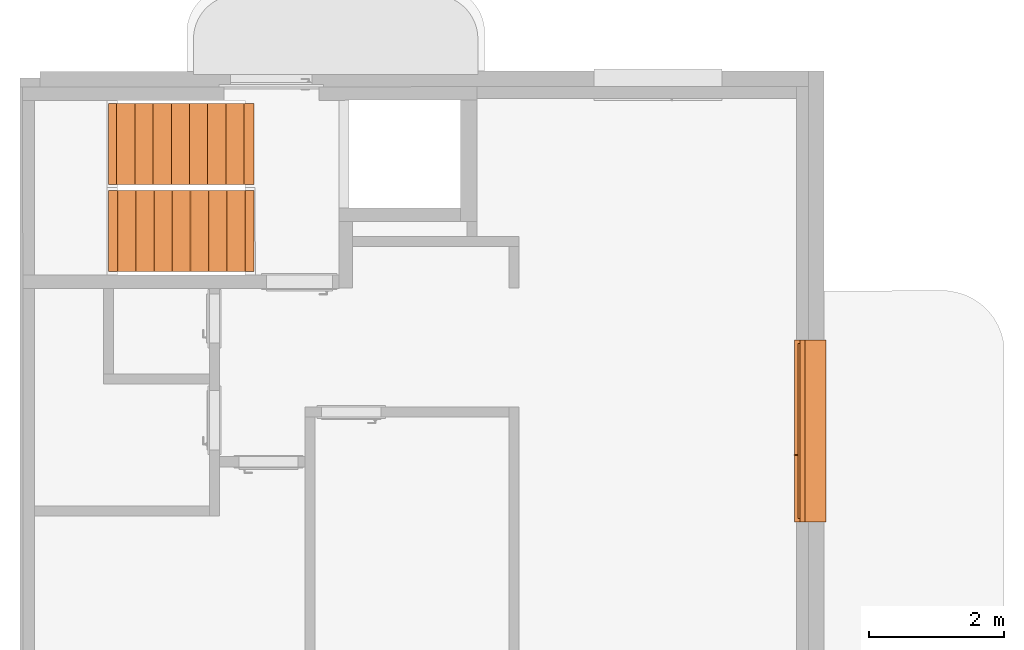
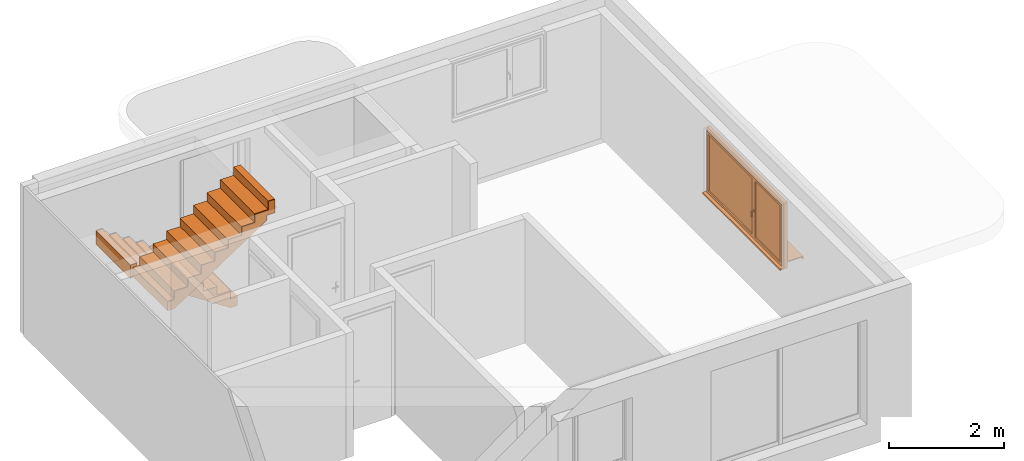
# One storey, part 7 of 9: 4 proxies.
"""IFC2X3 building model written with IfcOpenShell, lengths in metres."""

from ifc_helpers import new_model, entity, si_unit, converted_unit, derived_unit, direction, frame, origin, origin_with_axes, place, context, subcontext, project, spatial, closed_shell, open_shell, faceted_brep, surface_model, source, transform, mapped, element, save


model = new_model("IFC2X3")

# Units and contexts
model_context = context("Model", 3, precision=1e-05, world=origin(), true_north=direction((0.772621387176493, -0.634867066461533)))
body_context = subcontext(model_context, "Body", "Model", "MODEL_VIEW")
ifc_project = project(units=[si_unit("LENGTHUNIT", "METRE"), si_unit("AREAUNIT", "SQUARE_METRE"), si_unit("VOLUMEUNIT", "CUBIC_METRE"), si_unit("MASSUNIT", "GRAM", prefix="KILO"), converted_unit("PLANEANGLEUNIT", "DEGREE", entity("IfcPlaneAngleMeasure", 0.0174532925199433), si_unit("PLANEANGLEUNIT", "RADIAN"), dimensions=[0, 0, 0, 0, 0, 0, 0]), derived_unit("THERMALTRANSMITTANCEUNIT", [(si_unit("POWERUNIT", "WATT"), 1), (si_unit("THERMODYNAMICTEMPERATUREUNIT", "KELVIN"), -1), (si_unit("LENGTHUNIT", "METRE"), -2)]), derived_unit("VOLUMETRICFLOWRATEUNIT", [(si_unit("LENGTHUNIT", "METRE"), 3), (converted_unit("TIMEUNIT", "hour", entity("IfcTimeMeasure", 3600.0), si_unit("TIMEUNIT", "SECOND"), dimensions=[0, 0, 1, 0, 0, 0, 0]), -1), (si_unit("LENGTHUNIT", "METRE"), -1)])], contexts=[model_context])

# Site, building, storey
site_placement = place(None, origin())
site = spatial("IfcSite", under=ifc_project, at=site_placement, Name="Modelle auf dem Nullpunkt", CompositionType="ELEMENT")
building_placement = place(site_placement, origin())
building = spatial("IfcBuilding", under=site, at=building_placement, Name="I", CompositionType="ELEMENT")
storey_placement = place(building_placement, origin())
storey = spatial("IfcBuildingStorey", under=building, at=storey_placement, Name="EG", CompositionType="ELEMENT", Elevation=0.0)

# Proxies
shared_shape = source(origin_with_axes(), body_context, "Body", "SurfaceModel", [
    surface_model("IfcShellBasedSurfaceModel", [(2.69999999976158, 0.019999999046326, 0.12), (2.69999999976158, 0.019999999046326, 0.09), (2.7, 0.0, 0.09), (2.7, 0.0, 0.14), (2.69999999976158, 0.315000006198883, 0.15), (2.69999999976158, 0.315000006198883, 0.12), (0.0, 0.315000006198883, 0.12), (0.0, 0.315000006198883, 0.15), (0.0, 0.0, 0.14), (0.0, 0.0, 0.09), (0.0, 0.019999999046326, 0.09), (0.0, 0.019999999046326, 0.12)], [closed_shell([[[0, 1, 2, 3, 4, 5]], [[6, 7, 8, 9, 10, 11]], [[5, 6, 11, 0]], [[4, 7, 6, 5]], [[3, 8, 7, 4]], [[2, 9, 8, 3]], [[1, 10, 9, 2]], [[0, 11, 10, 1]]], orient=[[False], [False], [False], [False], [False], [False], [False], [False]])]),
    surface_model("IfcShellBasedSurfaceModel", [(2.7, 0.470000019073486, 0.0), (2.69999999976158, 0.355000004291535, 0.0), (2.69999999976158, 0.355000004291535, 0.03), (2.7, 0.470000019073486, 0.03), (0.0, 0.355000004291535, 0.0), (0.0, 0.470000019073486, 0.0), (0.0, 0.470000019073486, 0.03), (0.0, 0.355000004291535, 0.03)], [closed_shell([[[0, 1, 2, 3]], [[4, 5, 6, 7]], [[1, 0, 5, 4]], [[2, 1, 4, 7]], [[3, 2, 7, 6]], [[0, 3, 6, 5]]], orient=[[False], [False], [False], [False], [False], [False]])]),
    surface_model("IfcShellBasedSurfaceModel", [(2.7, 0.385000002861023, 1.4), (2.62999999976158, 0.385000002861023, 1.4), (2.62999999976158, 0.385000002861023, 0.0), (2.7, 0.385000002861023, 0.0), (2.69999999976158, 0.315000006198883, 0.0), (2.62999999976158, 0.315000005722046, 0.0), (2.62999999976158, 0.315000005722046, 1.4), (2.69999999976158, 0.315000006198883, 1.4)], [closed_shell([[[0, 1, 2, 3]], [[4, 5, 6, 7]], [[3, 4, 7, 0]], [[2, 5, 4, 3]], [[1, 6, 5, 2]], [[0, 7, 6, 1]]], orient=[[False], [False], [False], [False], [False], [False]])]),
    surface_model("IfcShellBasedSurfaceModel", [(0.07, 0.385000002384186, 1.4), (0.0, 0.385000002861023, 1.4), (0.0, 0.385000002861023, 0.0), (0.07, 0.385000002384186, 0.0), (0.0700000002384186, 0.315000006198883, 0.0), (0.0, 0.315000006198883, 0.0), (0.0, 0.315000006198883, 1.4), (0.0700000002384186, 0.315000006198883, 1.4)], [closed_shell([[[0, 1, 2, 3]], [[4, 5, 6, 7]], [[3, 4, 7, 0]], [[2, 5, 4, 3]], [[1, 6, 5, 2]], [[0, 7, 6, 1]]], orient=[[False], [False], [False], [False], [False], [False]])]),
    surface_model("IfcShellBasedSurfaceModel", [(2.62999999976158, 0.385000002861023, 0.07), (0.07, 0.385000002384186, 0.07), (0.07, 0.385000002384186, 0.0), (2.62999999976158, 0.385000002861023, 0.0), (2.62999999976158, 0.315000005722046, 0.0), (0.0700000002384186, 0.315000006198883, 0.0), (0.0700000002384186, 0.315000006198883, 0.07), (2.62999999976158, 0.315000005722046, 0.07)], [closed_shell([[[0, 1, 2, 3]], [[4, 5, 6, 7]], [[3, 4, 7, 0]], [[2, 5, 4, 3]], [[1, 6, 5, 2]], [[0, 7, 6, 1]]], orient=[[False], [False], [False], [False], [False], [False]])]),
    surface_model("IfcShellBasedSurfaceModel", [(2.62999999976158, 0.385000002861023, 1.4), (0.07, 0.385000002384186, 1.4), (0.07, 0.385000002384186, 1.33), (2.62999999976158, 0.385000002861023, 1.33), (2.62999999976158, 0.315000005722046, 1.33), (0.0700000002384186, 0.315000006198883, 1.33), (0.0700000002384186, 0.315000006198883, 1.4), (2.62999999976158, 0.315000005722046, 1.4)], [closed_shell([[[0, 1, 2, 3]], [[4, 5, 6, 7]], [[3, 4, 7, 0]], [[2, 5, 4, 3]], [[1, 6, 5, 2]], [[0, 7, 6, 1]]], orient=[[False], [False], [False], [False], [False], [False]])]),
    surface_model("IfcShellBasedSurfaceModel", [(2.65, 0.415000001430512, 1.35), (2.6, 0.415000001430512, 1.35), (2.6, 0.415000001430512, 0.05), (2.65, 0.415000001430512, 0.05), (2.64999999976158, 0.365000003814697, 0.05), (2.6, 0.365000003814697, 0.05), (2.6, 0.365000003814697, 1.35), (2.64999999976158, 0.365000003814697, 1.35)], [closed_shell([[[0, 1, 2, 3]], [[4, 5, 6, 7]], [[3, 4, 7, 0]], [[2, 5, 4, 3]], [[1, 6, 5, 2]], [[0, 7, 6, 1]]], orient=[[False], [False], [False], [False], [False], [False]])]),
    surface_model("IfcShellBasedSurfaceModel", [(1.06864814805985, 0.415000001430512, 1.35), (1.01864814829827, 0.415000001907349, 1.35), (1.01864814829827, 0.415000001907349, 0.05), (1.06864814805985, 0.415000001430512, 0.05), (1.06864814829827, 0.365000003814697, 0.05), (1.01864814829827, 0.365000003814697, 0.05), (1.01864814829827, 0.365000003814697, 1.35), (1.06864814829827, 0.365000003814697, 1.35)], [closed_shell([[[0, 1, 2, 3]], [[4, 5, 6, 7]], [[3, 4, 7, 0]], [[2, 5, 4, 3]], [[1, 6, 5, 2]], [[0, 7, 6, 1]]], orient=[[False], [False], [False], [False], [False], [False]])]),
    surface_model("IfcShellBasedSurfaceModel", [(2.6, 0.415000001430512, 0.1), (1.06864814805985, 0.415000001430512, 0.1), (1.06864814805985, 0.415000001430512, 0.05), (2.6, 0.415000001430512, 0.05), (2.6, 0.365000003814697, 0.05), (1.06864814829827, 0.365000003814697, 0.05), (1.06864814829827, 0.365000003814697, 0.1), (2.6, 0.365000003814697, 0.1)], [closed_shell([[[0, 1, 2, 3]], [[4, 5, 6, 7]], [[3, 4, 7, 0]], [[2, 5, 4, 3]], [[1, 6, 5, 2]], [[0, 7, 6, 1]]], orient=[[False], [False], [False], [False], [False], [False]])]),
    surface_model("IfcShellBasedSurfaceModel", [(2.6, 0.415000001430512, 1.35), (1.06864814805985, 0.415000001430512, 1.35), (1.06864814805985, 0.415000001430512, 1.3), (2.6, 0.415000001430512, 1.3), (2.6, 0.365000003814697, 1.3), (1.06864814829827, 0.365000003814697, 1.3), (1.06864814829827, 0.365000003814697, 1.35), (2.6, 0.365000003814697, 1.35)], [closed_shell([[[0, 1, 2, 3]], [[4, 5, 6, 7]], [[3, 4, 7, 0]], [[2, 5, 4, 3]], [[1, 6, 5, 2]], [[0, 7, 6, 1]]], orient=[[False], [False], [False], [False], [False], [False]])]),
    surface_model("IfcShellBasedSurfaceModel", [(1.04364814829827, 0.365000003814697, 1.33), (0.993648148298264, 0.365000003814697, 1.33), (0.993648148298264, 0.365000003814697, 0.07), (1.04364814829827, 0.365000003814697, 0.07), (1.04364814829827, 0.340000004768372, 0.07), (0.993648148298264, 0.340000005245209, 0.07), (0.993648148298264, 0.340000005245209, 1.33), (1.04364814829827, 0.340000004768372, 1.33)], [closed_shell([[[0, 1, 2, 3]], [[4, 5, 6, 7]], [[3, 4, 7, 0]], [[2, 5, 4, 3]], [[1, 6, 5, 2]], [[0, 7, 6, 1]]], orient=[[False], [False], [False], [False], [False], [False]])]),
    surface_model("IfcShellBasedSurfaceModel", [(1.01764814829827, 0.415000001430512, 1.35), (0.967648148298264, 0.415000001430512, 1.35), (0.967648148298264, 0.415000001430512, 0.05), (1.01764814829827, 0.415000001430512, 0.05), (1.01764814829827, 0.365000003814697, 0.05), (0.967648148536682, 0.365000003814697, 0.05), (0.967648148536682, 0.365000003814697, 1.35), (1.01764814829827, 0.365000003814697, 1.35)], [closed_shell([[[0, 1, 2, 3]], [[4, 5, 6, 7]], [[3, 4, 7, 0]], [[2, 5, 4, 3]], [[1, 6, 5, 2]], [[0, 7, 6, 1]]], orient=[[False], [False], [False], [False], [False], [False]])]),
    surface_model("IfcShellBasedSurfaceModel", [(0.0999999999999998, 0.415000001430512, 1.35), (0.0500000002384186, 0.415000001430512, 1.35), (0.0500000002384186, 0.415000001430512, 0.05), (0.0999999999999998, 0.415000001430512, 0.05), (0.100000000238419, 0.365000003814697, 0.05), (0.0500000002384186, 0.365000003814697, 0.05), (0.0500000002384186, 0.365000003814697, 1.35), (0.100000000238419, 0.365000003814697, 1.35)], [closed_shell([[[0, 1, 2, 3]], [[4, 5, 6, 7]], [[3, 4, 7, 0]], [[2, 5, 4, 3]], [[1, 6, 5, 2]], [[0, 7, 6, 1]]], orient=[[False], [False], [False], [False], [False], [False]])]),
    surface_model("IfcShellBasedSurfaceModel", [(0.967648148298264, 0.415000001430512, 0.1), (0.0999999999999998, 0.415000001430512, 0.1), (0.0999999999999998, 0.415000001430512, 0.05), (0.967648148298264, 0.415000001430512, 0.05), (0.967648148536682, 0.365000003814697, 0.05), (0.100000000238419, 0.365000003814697, 0.05), (0.100000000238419, 0.365000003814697, 0.1), (0.967648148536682, 0.365000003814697, 0.1)], [closed_shell([[[0, 1, 2, 3]], [[4, 5, 6, 7]], [[3, 4, 7, 0]], [[2, 5, 4, 3]], [[1, 6, 5, 2]], [[0, 7, 6, 1]]], orient=[[False], [False], [False], [False], [False], [False]])]),
    surface_model("IfcShellBasedSurfaceModel", [(0.967648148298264, 0.415000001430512, 1.35), (0.0999999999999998, 0.415000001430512, 1.35), (0.0999999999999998, 0.415000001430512, 1.3), (0.967648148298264, 0.415000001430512, 1.3), (0.967648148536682, 0.365000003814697, 1.3), (0.100000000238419, 0.365000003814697, 1.3), (0.100000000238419, 0.365000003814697, 1.35), (0.967648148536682, 0.365000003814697, 1.35)], [closed_shell([[[0, 1, 2, 3]], [[4, 5, 6, 7]], [[3, 4, 7, 0]], [[2, 5, 4, 3]], [[1, 6, 5, 2]], [[0, 7, 6, 1]]], orient=[[False], [False], [False], [False], [False], [False]])]),
    surface_model("IfcShellBasedSurfaceModel", [(1.00514814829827, 0.415000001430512, 0.67), (1.00514814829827, 0.415000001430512, 0.63), (0.980148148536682, 0.415000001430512, 0.63), (0.980148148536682, 0.415000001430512, 0.67), (1.00514814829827, 0.425000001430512, 0.63), (1.00514814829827, 0.425000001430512, 0.67), (0.980148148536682, 0.425000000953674, 0.67), (0.980148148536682, 0.425000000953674, 0.63)], [closed_shell([[[0, 1, 2, 3]], [[4, 5, 6, 7]], [[1, 0, 5, 4]], [[2, 1, 4, 7]], [[3, 2, 7, 6]], [[0, 3, 6, 5]]], orient=[[False], [False], [False], [False], [False], [False]])]),
    surface_model("IfcShellBasedSurfaceModel", [(0.982648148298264, 0.425000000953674, 0.65), (0.983987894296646, 0.425000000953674, 0.655), (0.987648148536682, 0.425000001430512, 0.658660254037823), (0.992648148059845, 0.425000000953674, 0.66), (0.997648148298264, 0.425000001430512, 0.658660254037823), (1.00130840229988, 0.425000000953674, 0.655), (1.00264814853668, 0.425000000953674, 0.65), (1.00130840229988, 0.425000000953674, 0.645), (0.997648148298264, 0.425000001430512, 0.641339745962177), (0.992648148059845, 0.425000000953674, 0.64), (0.987648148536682, 0.425000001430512, 0.641339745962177), (0.983987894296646, 0.425000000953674, 0.645), (0.982648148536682, 0.464999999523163, 0.65), (0.983987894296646, 0.469999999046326, 0.655), (0.987648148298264, 0.473660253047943, 0.658660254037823), (0.992648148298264, 0.474999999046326, 0.66), (0.997648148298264, 0.473660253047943, 0.658660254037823), (1.00130840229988, 0.469999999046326, 0.655), (1.00264814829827, 0.464999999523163, 0.65), (1.00130840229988, 0.459999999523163, 0.645), (0.997648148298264, 0.456339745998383, 0.641339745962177), (0.992648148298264, 0.455, 0.64), (0.987648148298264, 0.456339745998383, 0.641339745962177), (0.983987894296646, 0.46, 0.645), (0.982648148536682, 0.464999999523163, 0.535), (0.983987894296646, 0.46, 0.535), (0.987648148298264, 0.456339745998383, 0.535), (0.992648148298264, 0.455, 0.535), (0.997648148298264, 0.456339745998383, 0.535), (1.00130840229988, 0.459999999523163, 0.535), (1.00264814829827, 0.464999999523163, 0.535), (1.00130840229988, 0.469999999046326, 0.535), (0.997648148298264, 0.473660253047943, 0.535), (0.992648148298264, 0.474999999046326, 0.535), (0.987648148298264, 0.473660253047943, 0.535), (0.983987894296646, 0.469999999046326, 0.535)], [closed_shell([[[0, 1, 2, 3, 4, 5, 6, 7, 8, 9, 10, 11]], [[0, 12, 13, 1]], [[1, 13, 14, 2]], [[2, 14, 15, 3]], [[3, 15, 16, 4]], [[4, 16, 17, 5]], [[5, 17, 18, 6]], [[6, 18, 19, 7]], [[7, 19, 20, 8]], [[8, 20, 21, 9]], [[9, 21, 22, 10]], [[10, 22, 23, 11]], [[11, 23, 12, 0]], [[24, 25, 26, 27, 28, 29, 30, 31, 32, 33, 34, 35]], [[12, 24, 35, 13]], [[13, 35, 34, 14]], [[14, 34, 33, 15]], [[15, 33, 32, 16]], [[16, 32, 31, 17]], [[17, 31, 30, 18]], [[18, 30, 29, 19]], [[19, 29, 28, 20]], [[20, 28, 27, 21]], [[21, 27, 26, 22]], [[22, 26, 25, 23]], [[23, 25, 24, 12]]], orient=[[False], [False], [False], [False], [False], [False], [False], [False], [False], [False], [False], [False], [False], [False], [False], [False], [False], [False], [False], [False], [False], [False], [False], [False], [False], [False]])]),
    surface_model("IfcShellBasedSurfaceModel", [(2.59999999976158, 0.390000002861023, 0.1), (2.59999999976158, 0.390000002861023, 1.3), (1.06864814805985, 0.390000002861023, 1.3), (1.06864814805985, 0.390000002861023, 0.1)], [open_shell([[[0, 1, 2, 3]]], orient=[[False]])]),
    surface_model("IfcShellBasedSurfaceModel", [(0.967648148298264, 0.39000000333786, 0.1), (0.967648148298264, 0.39000000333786, 1.3), (0.0999999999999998, 0.390000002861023, 1.3), (0.0999999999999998, 0.390000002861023, 0.1)], [open_shell([[[0, 1, 2, 3]]], orient=[[False]])]),
])
proxy_1_placement = place(storey_placement, frame((41.2892304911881, -4.31917198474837, 436.9), z_axis=(0.0, 0.0, 1.0), x_axis=(-0.000353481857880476, 0.999999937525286, 0.0)))
element("IfcBuildingElementProxy", 1, at=proxy_1_placement, inside=storey, Name="2flg Weiß Stulp", context=body_context, shape_type="MappedRepresentation", body=[
    mapped(shared_shape, transform((0.0, 0.0, 0.0), x_axis=(1.0, 0.0, 0.0), y_axis=(0.0, 1.0, 0.0), z_axis=(0.0, 0.0, 1.0), scale=1.0)),
])
proxy_2_placement = place(storey_placement, frame((30.6378226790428, -0.602936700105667, 437.353415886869)))
element("IfcBuildingElementProxy", 2, at=proxy_2_placement, inside=storey, context=body_context, shape_type="Brep", body=[
    faceted_brep([(2.0350686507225, 1.20071928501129, 1.6167079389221), (2.0350686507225, 1.20071928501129, 1.43860688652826), (1.76506008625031, 1.20062384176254, 1.43860688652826), (1.76506008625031, 1.20062384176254, 1.26046397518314), (1.49505565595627, 1.20052840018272, 1.26046397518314), (1.49505565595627, 1.20052840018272, 1.08232054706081), (1.22504683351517, 1.20043295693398, 1.08232054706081), (1.22504683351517, 1.20043295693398, 0.904220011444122), (0.95504240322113, 1.20033751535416, 0.904220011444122), (0.95504240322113, 1.20033751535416, 0.726077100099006), (0.685054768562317, 1.2002420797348, 0.726077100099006), (0.685054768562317, 1.2002420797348, 0.547933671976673), (0.415045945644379, 1.20014663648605, 0.547933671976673), (0.415045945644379, 1.20014663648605, 0.369833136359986), (0.14503763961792, 1.20005119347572, 0.369833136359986), (0.14503763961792, 1.20005119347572, 0.191689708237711), (0.0, 1.19999992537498, 0.191689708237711), (0.0, 1.19999992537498, 0.0), (0.14503763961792, 1.20005119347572, 0.0), (2.00506637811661, 1.20070867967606, 1.22710445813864), (2.00506637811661, 1.20070867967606, 1.32857985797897), (2.16007368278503, 1.20076347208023, 1.32857985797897), (2.16007368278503, 1.20076347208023, 1.6167079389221), (2.03549282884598, 0.000719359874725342, 1.6167079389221), (2.16049786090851, 0.000763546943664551, 1.6167079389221), (2.16049786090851, 0.000763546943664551, 1.32857985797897), (2.00549055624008, 0.000708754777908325, 1.32857985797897), (2.00549055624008, 0.000708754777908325, 1.22710445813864), (0.145461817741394, 5.12683391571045e-05, 0.0), (0.000424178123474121, 0.0, 0.0), (0.000424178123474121, 0.0, 0.191689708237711), (0.145461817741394, 5.12683391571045e-05, 0.191689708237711), (0.145461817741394, 5.12683391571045e-05, 0.369833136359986), (0.415470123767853, 0.000146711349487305, 0.369833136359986), (0.415470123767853, 0.000146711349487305, 0.547933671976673), (0.685478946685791, 0.000242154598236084, 0.547933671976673), (0.685478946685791, 0.000242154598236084, 0.726077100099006), (0.955466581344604, 0.000337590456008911, 0.726077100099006), (0.955466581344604, 0.000337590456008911, 0.904220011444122), (1.22547101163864, 0.000433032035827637, 0.904220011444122), (1.22547101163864, 0.000433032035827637, 1.08232054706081), (1.49547983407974, 0.000528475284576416, 1.08232054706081), (1.49547983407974, 0.000528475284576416, 1.26046397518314), (1.76548426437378, 0.000623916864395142, 1.26046397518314), (1.76548426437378, 0.000623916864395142, 1.43860688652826), (2.03549282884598, 0.000719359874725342, 1.43860688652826)], [[[0, 1, 2, 3, 4, 5, 6, 7, 8, 9, 10, 11, 12, 13, 14, 15, 16, 17, 18, 19, 20, 21, 22]], [[23, 24, 25, 26, 27, 28, 29, 30, 31, 32, 33, 34, 35, 36, 37, 38, 39, 40, 41, 42, 43, 44, 45]], [[24, 23, 0, 22]], [[25, 24, 22, 21]], [[26, 25, 21, 20]], [[27, 26, 20, 19]], [[28, 27, 19, 18]], [[29, 28, 18, 17]], [[30, 29, 17, 16]], [[31, 30, 16, 15]], [[32, 31, 15, 14]], [[33, 32, 14, 13]], [[34, 33, 13, 12]], [[35, 34, 12, 11]], [[36, 35, 11, 10]], [[37, 36, 10, 9]], [[38, 37, 9, 8]], [[39, 38, 8, 7]], [[40, 39, 7, 6]], [[41, 40, 6, 5]], [[42, 41, 5, 4]], [[43, 42, 4, 3]], [[44, 43, 3, 2]], [[45, 44, 2, 1]], [[23, 45, 1, 0]]], orient=[[False], [False], [False], [False], [False], [False], [False], [False], [False], [False], [False], [False], [False], [False], [False], [False], [False], [False], [False], [False], [False], [False], [False], [False], [False]]),
])
proxy_3_placement = place(storey_placement, frame((30.6378226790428, -0.602936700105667, 437.545105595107)))
element("IfcBuildingElementProxy", 3, at=proxy_3_placement, inside=storey, context=body_context, shape_type="Brep", body=[
    faceted_brep([(2.02506927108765, 1.20071575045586, 1.43505145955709), (2.02506927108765, 1.20071575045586, 1.25690803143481), (1.75506070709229, 1.20062030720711, 1.25690803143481), (1.75506070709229, 1.20062030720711, 1.07876512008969), (1.48505627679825, 1.20052486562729, 1.07876512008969), (1.48505627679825, 1.20052486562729, 0.90066406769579), (1.21504745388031, 1.20042942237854, 0.90066406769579), (1.21504745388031, 1.20042942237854, 0.722521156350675), (0.94504302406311, 1.20033398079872, 0.722521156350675), (0.94504302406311, 1.20033398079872, 0.544378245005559), (0.675021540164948, 1.20023853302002, 0.544378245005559), (0.675021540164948, 1.20023853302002, 0.366234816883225), (0.405012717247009, 1.20014308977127, 0.366234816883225), (0.405012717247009, 1.20014308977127, 0.188134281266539), (0.135004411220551, 1.20004764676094, 0.188134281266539), (0.135004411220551, 1.20004764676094, 0.00999136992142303), (0.0, 1.19999992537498, 0.00999136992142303), (0.0, 1.19999992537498, 0.0), (0.14503763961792, 1.20005119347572, 0.0), (0.14503763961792, 1.20005119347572, 0.178143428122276), (0.415045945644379, 1.20014663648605, 0.178143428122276), (0.415045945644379, 1.20014663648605, 0.356243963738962), (0.685054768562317, 1.2002420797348, 0.356243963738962), (0.685054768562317, 1.2002420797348, 0.534387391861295), (0.95504240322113, 1.20033751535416, 0.534387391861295), (0.95504240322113, 1.20033751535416, 0.712530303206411), (1.22504683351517, 1.20043295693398, 0.712530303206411), (1.22504683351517, 1.20043295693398, 0.890630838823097), (1.49505565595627, 1.20052840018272, 0.890630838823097), (1.49505565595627, 1.20052840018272, 1.06877426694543), (1.76506008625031, 1.20062384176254, 1.06877426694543), (1.76506008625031, 1.20062384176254, 1.24691717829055), (2.0350686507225, 1.20071928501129, 1.24691717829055), (2.0350686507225, 1.20071928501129, 1.42501823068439), (2.16007368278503, 1.20076347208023, 1.42501823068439), (2.16007368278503, 1.20076347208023, 1.43505145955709), (2.02549344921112, 0.000715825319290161, 1.43505145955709), (2.16049786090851, 0.000763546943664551, 1.43505145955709), (2.16049786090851, 0.000763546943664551, 1.42501823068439), (2.03549282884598, 0.000719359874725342, 1.42501823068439), (2.03549282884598, 0.000719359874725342, 1.24691717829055), (1.76548426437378, 0.000623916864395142, 1.24691717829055), (1.76548426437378, 0.000623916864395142, 1.06877426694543), (1.49547983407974, 0.000528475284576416, 1.06877426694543), (1.49547983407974, 0.000528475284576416, 0.890630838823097), (1.22547101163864, 0.000433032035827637, 0.890630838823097), (1.22547101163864, 0.000433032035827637, 0.712530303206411), (0.955466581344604, 0.000337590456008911, 0.712530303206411), (0.955466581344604, 0.000337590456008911, 0.534387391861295), (0.685478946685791, 0.000242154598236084, 0.534387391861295), (0.685478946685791, 0.000242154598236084, 0.356243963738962), (0.415470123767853, 0.000146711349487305, 0.356243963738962), (0.415470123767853, 0.000146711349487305, 0.178143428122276), (0.145461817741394, 5.12683391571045e-05, 0.178143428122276), (0.145461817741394, 5.12683391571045e-05, 0.0), (0.000424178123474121, 0.0, 0.0), (0.000424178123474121, 0.0, 0.00999136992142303), (0.135428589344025, 4.77218627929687e-05, 0.00999136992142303), (0.135428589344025, 4.77218627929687e-05, 0.188134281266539), (0.405436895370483, 0.000143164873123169, 0.188134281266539), (0.405436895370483, 0.000143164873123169, 0.366234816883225), (0.675445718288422, 0.000238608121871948, 0.366234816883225), (0.675445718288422, 0.000238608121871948, 0.544378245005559), (0.945467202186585, 0.000334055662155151, 0.544378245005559), (0.945467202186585, 0.000334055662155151, 0.722521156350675), (1.21547163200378, 0.000429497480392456, 0.722521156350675), (1.21547163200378, 0.000429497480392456, 0.90066406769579), (1.48548045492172, 0.000524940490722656, 0.90066406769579), (1.48548045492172, 0.000524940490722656, 1.07876512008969), (1.75548488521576, 0.000620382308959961, 1.07876512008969), (1.75548488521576, 0.000620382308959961, 1.25690803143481), (2.02549344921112, 0.000715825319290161, 1.25690803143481)], [[[0, 1, 2, 3, 4, 5, 6, 7, 8, 9, 10, 11, 12, 13, 14, 15, 16, 17, 18, 19, 20, 21, 22, 23, 24, 25, 26, 27, 28, 29, 30, 31, 32, 33, 34, 35]], [[36, 37, 38, 39, 40, 41, 42, 43, 44, 45, 46, 47, 48, 49, 50, 51, 52, 53, 54, 55, 56, 57, 58, 59, 60, 61, 62, 63, 64, 65, 66, 67, 68, 69, 70, 71]], [[37, 36, 0, 35]], [[38, 37, 35, 34]], [[39, 38, 34, 33]], [[40, 39, 33, 32]], [[41, 40, 32, 31]], [[42, 41, 31, 30]], [[43, 42, 30, 29]], [[44, 43, 29, 28]], [[45, 44, 28, 27]], [[46, 45, 27, 26]], [[47, 46, 26, 25]], [[48, 47, 25, 24]], [[49, 48, 24, 23]], [[50, 49, 23, 22]], [[51, 50, 22, 21]], [[52, 51, 21, 20]], [[53, 52, 20, 19]], [[54, 53, 19, 18]], [[55, 54, 18, 17]], [[56, 55, 17, 16]], [[57, 56, 16, 15]], [[58, 57, 15, 14]], [[59, 58, 14, 13]], [[60, 59, 13, 12]], [[61, 60, 12, 11]], [[62, 61, 11, 10]], [[63, 62, 10, 9]], [[64, 63, 9, 8]], [[65, 64, 8, 7]], [[66, 65, 7, 6]], [[67, 66, 6, 5]], [[68, 67, 5, 4]], [[69, 68, 4, 3]], [[70, 69, 3, 2]], [[71, 70, 2, 1]], [[36, 71, 1, 0]]], orient=[[False], [False], [False], [False], [False], [False], [False], [False], [False], [False], [False], [False], [False], [False], [False], [False], [False], [False], [False], [False], [False], [False], [False], [False], [False], [False], [False], [False], [False], [False], [False], [False], [False], [False], [False], [False], [False], [False]]),
])
proxy_4_placement = place(storey_placement, frame((30.6368631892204, 0.687063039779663, 435.928385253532)))
element("IfcBuildingElementProxy", 4, at=proxy_4_placement, inside=storey, context=body_context, shape_type="Brep", body=[
    faceted_brep([(0.125005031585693, 1.20004411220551, 1.6167079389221), (0.0, 1.19999992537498, 1.6167079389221), (0.0, 1.19999992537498, 1.32857985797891), (0.155007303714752, 1.20005471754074, 1.32857985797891), (0.155007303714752, 1.20005471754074, 1.22710445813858), (2.01503604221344, 1.20071220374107, 0.0), (2.16007368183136, 1.20076347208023, 0.0), (2.16007368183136, 1.20076347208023, 0.191689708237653), (2.01503604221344, 1.20071220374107, 0.191689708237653), (2.01503604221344, 1.20071220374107, 0.369833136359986), (1.74502773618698, 1.20061676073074, 0.369833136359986), (1.74502773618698, 1.20061676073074, 0.547933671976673), (1.47501891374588, 1.20052131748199, 0.547933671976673), (1.47501891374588, 1.20052131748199, 0.726077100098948), (1.20503127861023, 1.20042588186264, 0.726077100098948), (1.20503127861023, 1.20042588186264, 0.904220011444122), (0.93502684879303, 1.20033044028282, 0.904220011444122), (0.93502684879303, 1.20033044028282, 1.08232054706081), (0.665018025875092, 1.20023499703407, 1.08232054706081), (0.665018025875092, 1.20023499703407, 1.26046397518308), (0.395013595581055, 1.20013955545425, 1.26046397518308), (0.395013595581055, 1.20013955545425, 1.43860688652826), (0.125005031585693, 1.20004411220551, 1.43860688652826), (0.125429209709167, 4.41873073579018e-05, 1.6167079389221), (0.125429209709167, 4.41873073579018e-05, 1.43860688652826), (0.395437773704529, 0.000139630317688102, 1.43860688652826), (0.395437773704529, 0.000139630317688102, 1.26046397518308), (0.665442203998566, 0.000235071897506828, 1.26046397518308), (0.665442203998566, 0.000235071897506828, 1.08232054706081), (0.935451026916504, 0.000330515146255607, 1.08232054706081), (0.935451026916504, 0.000330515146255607, 0.904220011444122), (1.2054554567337, 0.000425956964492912, 0.904220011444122), (1.2054554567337, 0.000425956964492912, 0.726077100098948), (1.47544309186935, 0.00052139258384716, 0.726077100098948), (1.47544309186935, 0.00052139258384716, 0.547933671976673), (1.74545191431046, 0.000616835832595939, 0.547933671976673), (1.74545191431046, 0.000616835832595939, 0.369833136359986), (2.01546022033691, 0.000712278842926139, 0.369833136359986), (2.01546022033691, 0.000712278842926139, 0.191689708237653), (2.16049785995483, 0.000763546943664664, 0.191689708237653), (2.16049785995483, 0.000763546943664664, 0.0), (2.01546022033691, 0.000712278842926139, 0.0), (0.155431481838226, 5.47924041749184e-05, 1.22710445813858), (0.155431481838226, 5.47924041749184e-05, 1.32857985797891), (0.000424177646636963, 0.0, 1.32857985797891), (0.000424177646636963, 0.0, 1.6167079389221)], [[[0, 1, 2, 3, 4, 5, 6, 7, 8, 9, 10, 11, 12, 13, 14, 15, 16, 17, 18, 19, 20, 21, 22]], [[23, 24, 25, 26, 27, 28, 29, 30, 31, 32, 33, 34, 35, 36, 37, 38, 39, 40, 41, 42, 43, 44, 45]], [[45, 1, 0, 23]], [[44, 2, 1, 45]], [[43, 3, 2, 44]], [[42, 4, 3, 43]], [[41, 5, 4, 42]], [[40, 6, 5, 41]], [[39, 7, 6, 40]], [[38, 8, 7, 39]], [[37, 9, 8, 38]], [[36, 10, 9, 37]], [[35, 11, 10, 36]], [[34, 12, 11, 35]], [[33, 13, 12, 34]], [[32, 14, 13, 33]], [[31, 15, 14, 32]], [[30, 16, 15, 31]], [[29, 17, 16, 30]], [[28, 18, 17, 29]], [[27, 19, 18, 28]], [[26, 20, 19, 27]], [[25, 21, 20, 26]], [[24, 22, 21, 25]], [[23, 0, 22, 24]]], orient=[[False], [False], [False], [False], [False], [False], [False], [False], [False], [False], [False], [False], [False], [False], [False], [False], [False], [False], [False], [False], [False], [False], [False], [False], [False]]),
])

save(model, "model.ifc")
